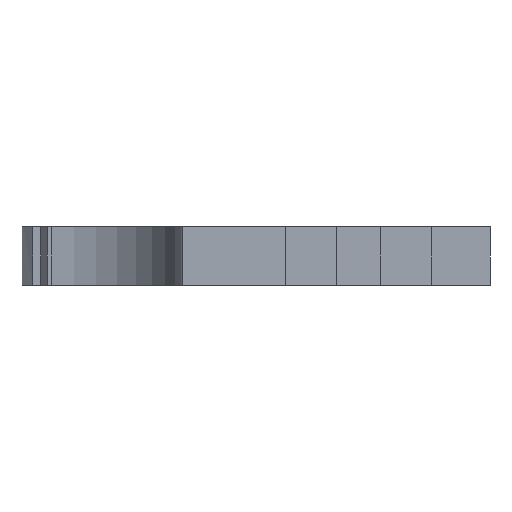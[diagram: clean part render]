
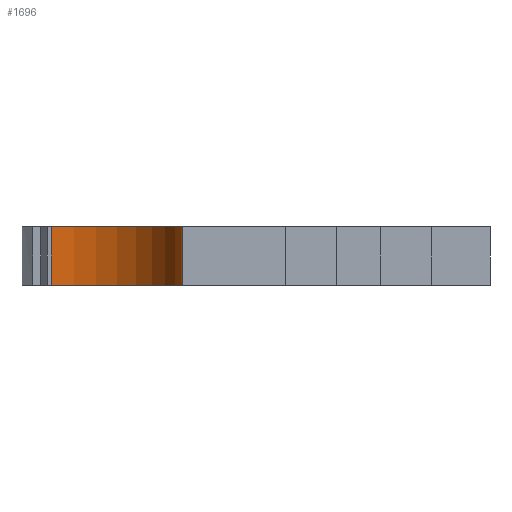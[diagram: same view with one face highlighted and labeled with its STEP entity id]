
A CAD part, front view. The second image highlights one B-rep face of the part: STEP entity #1696.
In plain terms, the highlighted cylindrical face has radius 9 mm (diameter 18 mm), a partial arc.
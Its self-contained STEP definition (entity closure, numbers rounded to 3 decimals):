
#177=FACE_OUTER_BOUND('',#259,.T.);
#259=EDGE_LOOP('',(#1402,#1403,#1404,#1405));
#471=LINE('',#2663,#675);
#472=LINE('',#2669,#676);
#675=VECTOR('',#2197,10.);
#676=VECTOR('',#2204,10.);
#730=CIRCLE('',#1819,9.);
#731=CIRCLE('',#1820,9.);
#868=VERTEX_POINT('',#2659);
#869=VERTEX_POINT('',#2661);
#870=VERTEX_POINT('',#2665);
#871=VERTEX_POINT('',#2667);
#1095=EDGE_CURVE('',#868,#869,#471,.T.);
#1096=EDGE_CURVE('',#870,#868,#730,.T.);
#1097=EDGE_CURVE('',#871,#869,#731,.T.);
#1098=EDGE_CURVE('',#870,#871,#472,.T.);
#1402=ORIENTED_EDGE('',*,*,#1096,.T.);
#1403=ORIENTED_EDGE('',*,*,#1095,.T.);
#1404=ORIENTED_EDGE('',*,*,#1097,.F.);
#1405=ORIENTED_EDGE('',*,*,#1098,.F.);
#1627=CYLINDRICAL_SURFACE('',#1818,9.);
#1696=ADVANCED_FACE('',(#177),#1627,.F.);
#1818=AXIS2_PLACEMENT_3D('',#2664,#2198,#2199);
#1819=AXIS2_PLACEMENT_3D('',#2666,#2200,#2201);
#1820=AXIS2_PLACEMENT_3D('',#2668,#2202,#2203);
#2197=DIRECTION('',(0.,0.,1.));
#2198=DIRECTION('center_axis',(0.,0.,1.));
#2199=DIRECTION('ref_axis',(0.,1.,0.));
#2200=DIRECTION('center_axis',(0.,0.,-1.));
#2201=DIRECTION('ref_axis',(0.,1.,0.));
#2202=DIRECTION('center_axis',(0.,0.,-1.));
#2203=DIRECTION('ref_axis',(0.,1.,0.));
#2204=DIRECTION('',(0.,0.,1.));
#2659=CARTESIAN_POINT('',(112.218,-78.305,0.));
#2661=CARTESIAN_POINT('',(112.218,-78.305,4.));
#2663=CARTESIAN_POINT('',(112.218,-78.305,0.));
#2664=CARTESIAN_POINT('Origin',(103.218,-78.305,0.));
#2665=CARTESIAN_POINT('',(103.218,-69.305,0.));
#2666=CARTESIAN_POINT('Origin',(103.218,-78.305,0.));
#2667=CARTESIAN_POINT('',(103.218,-69.305,4.));
#2668=CARTESIAN_POINT('Origin',(103.218,-78.305,4.));
#2669=CARTESIAN_POINT('',(103.218,-69.305,0.));
